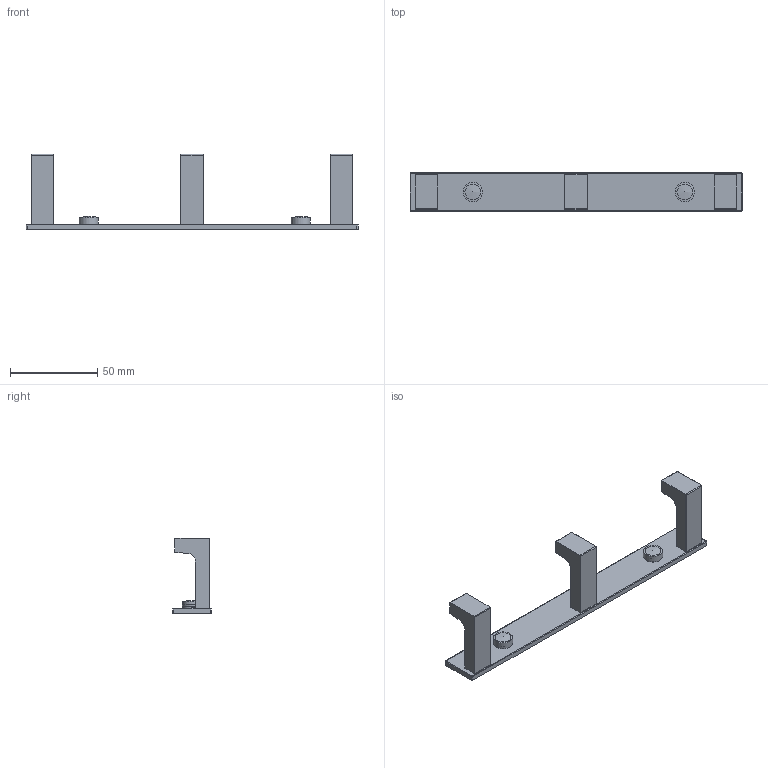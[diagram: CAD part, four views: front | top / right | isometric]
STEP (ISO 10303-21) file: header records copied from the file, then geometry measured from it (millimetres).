
FILE_DESCRIPTION(/* description */ (''),/* implementation_level */ '2;1');
FILE_NAME(/* name */ 'c:\worker\convert-fusion-r09\tmp\job-1\3\output\files\27f19c83-06fe-4419-98eb-b6f7f81a9465\8949facf-c27e-475c-80e7-b152e70dc312.stp',/* time_stamp */ '2020-01-09T07:25:23+00:00',/* author */ (''),/* organization */ (''),/* preprocessor_version */ 'ST-DEVELOPER v18',/* originating_system */ 'Autodesk Translation Framework v8.12.0.6',/* authorisation */ '');
FILE_SCHEMA (('AUTOMOTIVE_DESIGN { 1 0 10303 214 3 1 1 }'));
Length unit declared in the file: millimetre
Products named in the file (2): !UN10130K; !UN10120K v1
Assembly tree (1 placements, depth 2):
  !UN10130K
    !UN10120K v1
Bounding box: 190 x 22 x 43 mm (x, y, z)
Volume: 29547.6 mm3; surface area: 18401.4 mm2
Topology: 8 solids, 8 shells, 168 faces, 398 edges, 208 vertices
Faces by surface type: cylinder 80, plane 38, bspline 26, torus 16, cone 6, sphere 2
Full cylindrical faces by diameter (mm): 3.12 x2, 4.2 x2, 9 x2, 9.8 x4, 11 x2
Entity records: 6714 total; most frequent: CARTESIAN_POINT 2865, DIRECTION 824, ORIENTED_EDGE 792, EDGE_CURVE 396, AXIS2_PLACEMENT_3D 337, VERTEX_POINT 208, CIRCLE 192, EDGE_LOOP 178
